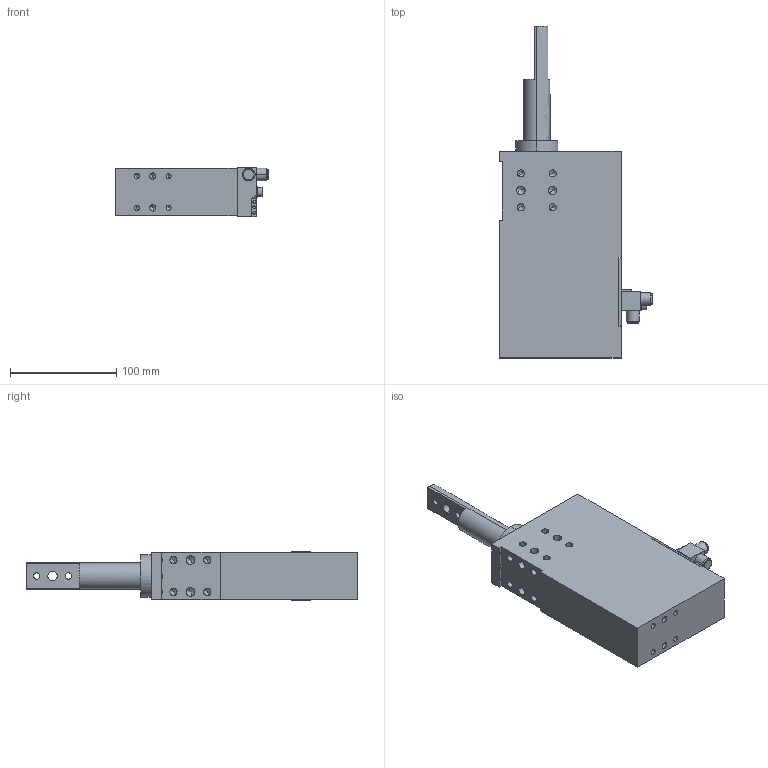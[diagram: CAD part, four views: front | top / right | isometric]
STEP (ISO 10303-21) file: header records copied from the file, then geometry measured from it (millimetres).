
FILE_DESCRIPTION(('CATIA V5 STEP Exchange'),'2;1');
FILE_NAME('G:\Konstruktion\Modelle\SZV_1_40_A32_T12_TUENKERS.stp','2019-07-09T13:23:15+00:00',('none'),('none'),'CATIA Version 5 Release 19 SP 9 (IN-10)','CATIA V5 STEP AP214','none');
FILE_SCHEMA(('AUTOMOTIVE_DESIGN { 1 0 10303 214 1 1 1 1 }'));
Length unit declared in the file: millimetre
Products named in the file (1): SZV_1_40_A32_T12_TUENKERS
Bounding box: 145 x 313 x 47 mm (x, y, z)
Volume: 1056034.5 mm3; surface area: 95533.2 mm2
Topology: 1 solids, 1 shells, 218 faces, 635 edges, 385 vertices
Faces by surface type: cylinder 82, cone 66, plane 43, bspline 13, sphere 12, torus 2
Entity records: 7602 total; most frequent: CARTESIAN_POINT 1790, ORIENTED_EDGE 1122, DIRECTION 743, EDGE_CURVE 561, VERTEX_POINT 385, AXIS2_PLACEMENT_3D 381, EDGE_LOOP 270, CIRCLE 261
